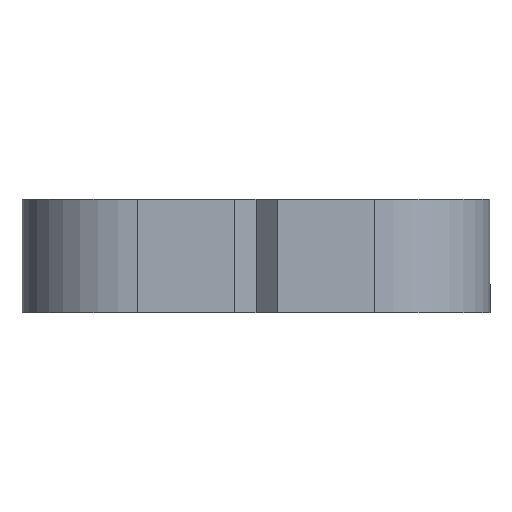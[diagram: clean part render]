
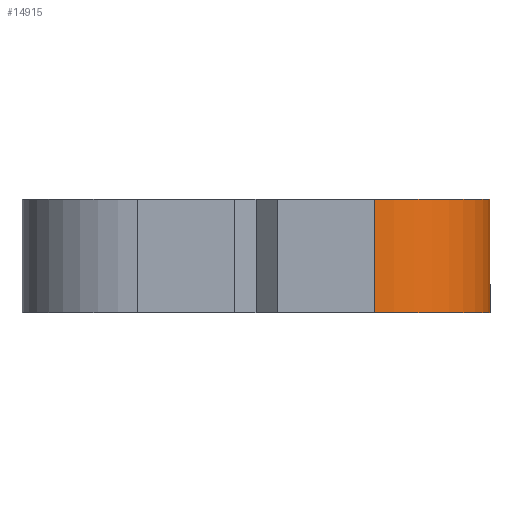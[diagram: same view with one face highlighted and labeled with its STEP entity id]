
A CAD part, left-side view. The second image highlights one B-rep face of the part: STEP entity #14915.
In plain terms, the highlighted cylindrical face has radius 6.2 mm (diameter 12.4 mm), a partial arc.
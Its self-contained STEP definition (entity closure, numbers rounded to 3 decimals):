
#1338 = LINE ( 'NONE', #17027, #10579 ) ;
#2030 = VERTEX_POINT ( 'NONE', #7681 ) ;
#2246 = CIRCLE ( 'NONE', #9978, 6.2 ) ;
#2294 = CARTESIAN_POINT ( 'NONE',  ( -31.75, -6.35, -3.05 ) ) ;
#2920 = AXIS2_PLACEMENT_3D ( 'NONE', #13637, #20448, #15367 ) ;
#3397 = FACE_OUTER_BOUND ( 'NONE', #15128, .T. ) ;
#3648 = CIRCLE ( 'NONE', #2920, 6.2 ) ;
#4233 = DIRECTION ( 'NONE',  ( 0., 0., 1. ) ) ;
#4512 = ORIENTED_EDGE ( 'NONE', *, *, #19336, .F. ) ;
#4690 = LINE ( 'NONE', #13815, #5641 ) ;
#5641 = VECTOR ( 'NONE', #10346, 1000. ) ;
#6331 = AXIS2_PLACEMENT_3D ( 'NONE', #14440, #22758, #21365 ) ;
#6956 = VERTEX_POINT ( 'NONE', #17359 ) ;
#7319 = EDGE_CURVE ( 'NONE', #22345, #2030, #3648, .T. ) ;
#7681 = CARTESIAN_POINT ( 'NONE',  ( -31.75, -12.55, 3.05 ) ) ;
#9418 = DIRECTION ( 'NONE',  ( 1., 0., 0. ) ) ;
#9978 = AXIS2_PLACEMENT_3D ( 'NONE', #2294, #4233, #9418 ) ;
#10346 = DIRECTION ( 'NONE',  ( 0., 0., -1. ) ) ;
#10516 = ORIENTED_EDGE ( 'NONE', *, *, #7319, .F. ) ;
#10579 = VECTOR ( 'NONE', #18756, 1000. ) ;
#11303 = CARTESIAN_POINT ( 'NONE',  ( -37.95, -6.35, 3.05 ) ) ;
#12202 = EDGE_CURVE ( 'NONE', #22345, #6956, #4690, .T. ) ;
#13101 = ORIENTED_EDGE ( 'NONE', *, *, #17075, .T. ) ;
#13637 = CARTESIAN_POINT ( 'NONE',  ( -31.75, -6.35, 3.05 ) ) ;
#13815 = CARTESIAN_POINT ( 'NONE',  ( -37.95, -6.35, 1. ) ) ;
#13989 = ORIENTED_EDGE ( 'NONE', *, *, #12202, .T. ) ;
#14440 = CARTESIAN_POINT ( 'NONE',  ( -31.75, -6.35, 1. ) ) ;
#14915 = ADVANCED_FACE ( 'NONE', ( #3397 ), #19527, .T. ) ;
#14945 = VERTEX_POINT ( 'NONE', #17462 ) ;
#15128 = EDGE_LOOP ( 'NONE', ( #13989, #13101, #4512, #10516 ) ) ;
#15367 = DIRECTION ( 'NONE',  ( 1., 0., 0. ) ) ;
#17027 = CARTESIAN_POINT ( 'NONE',  ( -31.75, -12.55, 1. ) ) ;
#17075 = EDGE_CURVE ( 'NONE', #6956, #14945, #2246, .T. ) ;
#17359 = CARTESIAN_POINT ( 'NONE',  ( -37.95, -6.35, -3.05 ) ) ;
#17462 = CARTESIAN_POINT ( 'NONE',  ( -31.75, -12.55, -3.05 ) ) ;
#18756 = DIRECTION ( 'NONE',  ( 0., 0., -1. ) ) ;
#19336 = EDGE_CURVE ( 'NONE', #2030, #14945, #1338, .T. ) ;
#19527 = CYLINDRICAL_SURFACE ( 'NONE', #6331, 6.2 ) ;
#20448 = DIRECTION ( 'NONE',  ( 0., 0., 1. ) ) ;
#21365 = DIRECTION ( 'NONE',  ( -1., 0., 0. ) ) ;
#22345 = VERTEX_POINT ( 'NONE', #11303 ) ;
#22758 = DIRECTION ( 'NONE',  ( 0., 0., -1. ) ) ;
